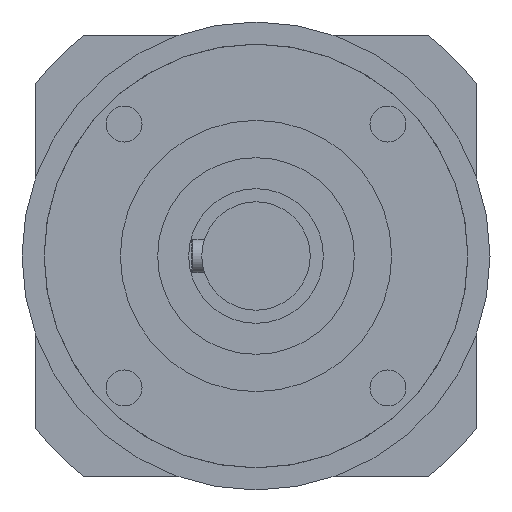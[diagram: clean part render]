
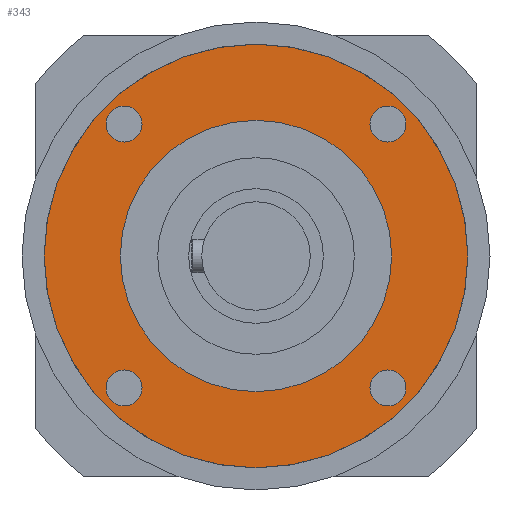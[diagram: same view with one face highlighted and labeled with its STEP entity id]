
A CAD part, left-side view. The second image highlights one B-rep face of the part: STEP entity #343.
In plain terms, the highlighted planar face has unit normal (-1, 0, 0).
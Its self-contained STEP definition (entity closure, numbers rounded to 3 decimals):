
#187=FACE_BOUND('',#585,.T.);
#188=FACE_BOUND('',#586,.T.);
#189=FACE_BOUND('',#587,.T.);
#190=FACE_BOUND('',#588,.T.);
#191=FACE_BOUND('',#589,.T.);
#269=PLANE('',#1533);
#343=ADVANCED_FACE('',(#187,#188,#189,#190,#191,#469),#269,.T.);
#469=FACE_OUTER_BOUND('',#590,.T.);
#585=EDGE_LOOP('',(#951));
#586=EDGE_LOOP('',(#952));
#587=EDGE_LOOP('',(#953));
#588=EDGE_LOOP('',(#954));
#589=EDGE_LOOP('',(#955));
#590=EDGE_LOOP('',(#956));
#951=ORIENTED_EDGE('',*,*,#1282,.F.);
#952=ORIENTED_EDGE('',*,*,#1283,.F.);
#953=ORIENTED_EDGE('',*,*,#1284,.F.);
#954=ORIENTED_EDGE('',*,*,#1285,.F.);
#955=ORIENTED_EDGE('',*,*,#1279,.T.);
#956=ORIENTED_EDGE('',*,*,#1286,.F.);
#1141=VERTEX_POINT('',#2326);
#1144=VERTEX_POINT('',#2334);
#1145=VERTEX_POINT('',#2336);
#1146=VERTEX_POINT('',#2338);
#1147=VERTEX_POINT('',#2340);
#1148=VERTEX_POINT('',#2342);
#1279=EDGE_CURVE('',#1141,#1141,#1384,.T.);
#1282=EDGE_CURVE('',#1144,#1144,#1387,.T.);
#1283=EDGE_CURVE('',#1145,#1145,#1388,.T.);
#1284=EDGE_CURVE('',#1146,#1146,#1389,.T.);
#1285=EDGE_CURVE('',#1147,#1147,#1390,.T.);
#1286=EDGE_CURVE('',#1148,#1148,#1391,.T.);
#1384=CIRCLE('',#1523,40.);
#1387=CIRCLE('',#1528,5.29);
#1388=CIRCLE('',#1529,5.29);
#1389=CIRCLE('',#1530,5.29);
#1390=CIRCLE('',#1531,5.29);
#1391=CIRCLE('',#1532,62.5);
#1523=AXIS2_PLACEMENT_3D('',#2325,#1846,#1847);
#1528=AXIS2_PLACEMENT_3D('',#2333,#1856,#1857);
#1529=AXIS2_PLACEMENT_3D('',#2335,#1858,#1859);
#1530=AXIS2_PLACEMENT_3D('',#2337,#1860,#1861);
#1531=AXIS2_PLACEMENT_3D('',#2339,#1862,#1863);
#1532=AXIS2_PLACEMENT_3D('',#2341,#1864,#1865);
#1533=AXIS2_PLACEMENT_3D('',#2343,#1866,#1867);
#1846=DIRECTION('',(1.,0.,0.));
#1847=DIRECTION('',(0.,0.,-1.));
#1856=DIRECTION('',(-1.,0.,0.));
#1857=DIRECTION('',(0.,0.,-1.));
#1858=DIRECTION('',(-1.,0.,0.));
#1859=DIRECTION('',(0.,0.,-1.));
#1860=DIRECTION('',(-1.,0.,0.));
#1861=DIRECTION('',(0.,0.,-1.));
#1862=DIRECTION('',(-1.,0.,0.));
#1863=DIRECTION('',(0.,0.,-1.));
#1864=DIRECTION('',(1.,0.,0.));
#1865=DIRECTION('',(0.,0.,1.));
#1866=DIRECTION('',(-1.,0.,0.));
#1867=DIRECTION('',(0.,0.,-1.));
#2325=CARTESIAN_POINT('',(-205.,0.,0.));
#2326=CARTESIAN_POINT('',(-205.,0.,-40.));
#2333=CARTESIAN_POINT('',(-205.,-38.891,38.891));
#2334=CARTESIAN_POINT('',(-205.,-38.891,33.601));
#2335=CARTESIAN_POINT('',(-205.,38.891,38.891));
#2336=CARTESIAN_POINT('',(-205.,38.891,33.601));
#2337=CARTESIAN_POINT('',(-205.,38.891,-38.891));
#2338=CARTESIAN_POINT('',(-205.,38.891,-44.18));
#2339=CARTESIAN_POINT('',(-205.,-38.891,-38.891));
#2340=CARTESIAN_POINT('',(-205.,-38.891,-44.18));
#2341=CARTESIAN_POINT('',(-205.,0.,0.));
#2342=CARTESIAN_POINT('',(-205.,0.,62.5));
#2343=CARTESIAN_POINT('',(-205.,0.,0.));
